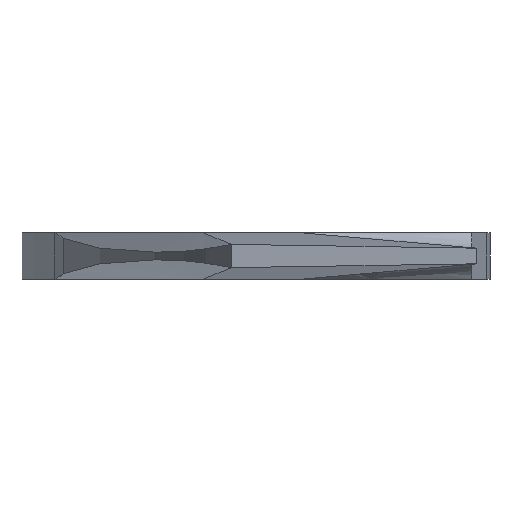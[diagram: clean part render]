
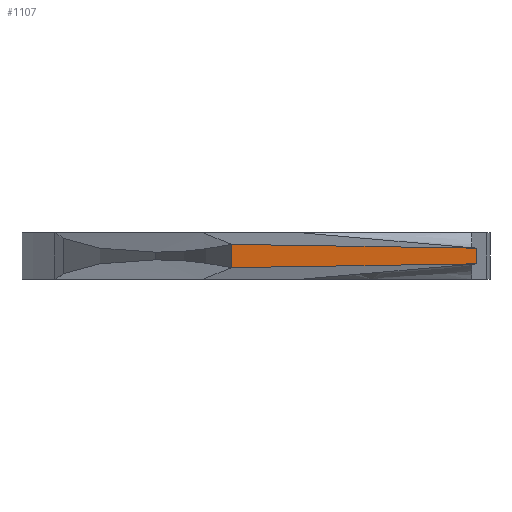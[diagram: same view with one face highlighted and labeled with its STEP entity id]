
A CAD part, left-side view. The second image highlights one B-rep face of the part: STEP entity #1107.
In plain terms, the highlighted planar face has unit normal (-0.565, -0.825, 0).
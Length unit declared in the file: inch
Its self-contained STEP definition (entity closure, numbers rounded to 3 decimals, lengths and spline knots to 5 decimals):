
#44 = VERTEX_POINT ( 'NONE', #154 ) ;
#81 = LINE ( 'NONE', #429, #1189 ) ;
#103 = CARTESIAN_POINT ( 'NONE',  ( 0.63809, 2.73326, 0.03094 ) ) ;
#147 = DIRECTION ( 'NONE',  ( -0.825, 0.565, 0. ) ) ;
#154 = CARTESIAN_POINT ( 'NONE',  ( 1.59112, 2.08121, 0.02086 ) ) ;
#164 = CARTESIAN_POINT ( 'NONE',  ( 0.63809, 2.73326, 0.0625 ) ) ;
#202 = DIRECTION ( 'NONE',  ( 0., 0., -1. ) ) ;
#277 = VERTEX_POINT ( 'NONE', #103 ) ;
#297 = EDGE_CURVE ( 'NONE', #44, #1124, #668, .T. ) ;
#356 = CARTESIAN_POINT ( 'NONE',  ( 0.63809, 2.73326, -0.03094 ) ) ;
#363 = LINE ( 'NONE', #416, #650 ) ;
#402 = FACE_OUTER_BOUND ( 'NONE', #913, .T. ) ;
#416 = CARTESIAN_POINT ( 'NONE',  ( -0.18722, 3.29794, 0.03967 ) ) ;
#429 = CARTESIAN_POINT ( 'NONE',  ( 0.63809, 2.73326, 0.0625 ) ) ;
#550 = CARTESIAN_POINT ( 'NONE',  ( 1.59112, 2.08121, -0.02086 ) ) ;
#561 = VERTEX_POINT ( 'NONE', #356 ) ;
#640 = AXIS2_PLACEMENT_3D ( 'NONE', #164, #848, #147 ) ;
#650 = VECTOR ( 'NONE', #1106, 39.37008 ) ;
#668 = LINE ( 'NONE', #782, #1210 ) ;
#730 = ORIENTED_EDGE ( 'NONE', *, *, #959, .T. ) ;
#740 = PLANE ( 'NONE',  #640 ) ;
#782 = CARTESIAN_POINT ( 'NONE',  ( 1.59112, 2.08121, 0.0625 ) ) ;
#803 = LINE ( 'NONE', #1079, #1016 ) ;
#820 = ORIENTED_EDGE ( 'NONE', *, *, #297, .F. ) ;
#848 = DIRECTION ( 'NONE',  ( 0.565, 0.825, 0. ) ) ;
#913 = EDGE_LOOP ( 'NONE', ( #1137, #820, #1037, #730 ) ) ;
#931 = EDGE_CURVE ( 'NONE', #277, #44, #363, .T. ) ;
#959 = EDGE_CURVE ( 'NONE', #277, #561, #81, .T. ) ;
#1016 = VECTOR ( 'NONE', #1250, 39.37008 ) ;
#1037 = ORIENTED_EDGE ( 'NONE', *, *, #931, .F. ) ;
#1079 = CARTESIAN_POINT ( 'NONE',  ( -0.18722, 3.29794, -0.03967 ) ) ;
#1106 = DIRECTION ( 'NONE',  ( 0.825, -0.565, -0.009 ) ) ;
#1107 = ADVANCED_FACE ( 'NONE', ( #402 ), #740, .F. ) ;
#1124 = VERTEX_POINT ( 'NONE', #550 ) ;
#1137 = ORIENTED_EDGE ( 'NONE', *, *, #1140, .T. ) ;
#1140 = EDGE_CURVE ( 'NONE', #561, #1124, #803, .T. ) ;
#1189 = VECTOR ( 'NONE', #1217, 39.37008 ) ;
#1210 = VECTOR ( 'NONE', #202, 39.37008 ) ;
#1217 = DIRECTION ( 'NONE',  ( 0., 0., -1. ) ) ;
#1250 = DIRECTION ( 'NONE',  ( 0.825, -0.565, 0.009 ) ) ;
